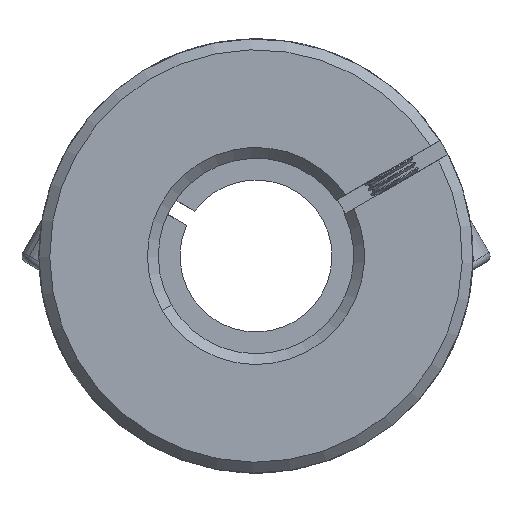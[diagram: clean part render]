
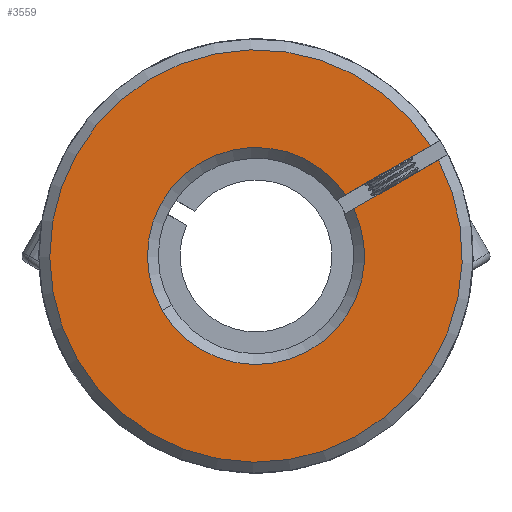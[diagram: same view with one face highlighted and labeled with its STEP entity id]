
A CAD part, front view. The second image highlights one B-rep face of the part: STEP entity #3559.
In plain terms, the highlighted planar face has unit normal (0, -1, 0).
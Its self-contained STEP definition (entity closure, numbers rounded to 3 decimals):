
#1217 = AXIS2_PLACEMENT_3D ( 'NONE', #3233, #9621, #7512 ) ;
#1266 = PLANE ( 'NONE',  #9088 ) ;
#1802 = ORIENTED_EDGE ( 'NONE', *, *, #13614, .T. ) ;
#2061 = CARTESIAN_POINT ( 'NONE',  ( -1.447, -31.239, 40. ) ) ;
#2662 = DIRECTION ( 'NONE',  ( 0.866, 0., 0.5 ) ) ;
#2723 = VECTOR ( 'NONE', #2662, 1000. ) ;
#3188 = CARTESIAN_POINT ( 'NONE',  ( 6.812, -31.239, 45.638 ) ) ;
#3233 = CARTESIAN_POINT ( 'NONE',  ( -1.447, -31.239, 40. ) ) ;
#3379 = DIRECTION ( 'NONE',  ( -0.866, 0., -0.5 ) ) ;
#3424 = EDGE_CURVE ( 'NONE', #5319, #13569, #8142, .T. ) ;
#3559 = ADVANCED_FACE ( 'NONE', ( #5109 ), #1266, .F. ) ;
#3897 = CARTESIAN_POINT ( 'NONE',  ( -10.106, -31.239, 34.997 ) ) ;
#4230 = ORIENTED_EDGE ( 'NONE', *, *, #9969, .T. ) ;
#4287 = CARTESIAN_POINT ( 'NONE',  ( 14.616, -31.239, 50.147 ) ) ;
#4338 = ORIENTED_EDGE ( 'NONE', *, *, #5843, .F. ) ;
#5022 = VERTEX_POINT ( 'NONE', #4287 ) ;
#5109 = FACE_OUTER_BOUND ( 'NONE', #6801, .T. ) ;
#5319 = VERTEX_POINT ( 'NONE', #3897 ) ;
#5325 = DIRECTION ( 'NONE',  ( 0., -1., 0. ) ) ;
#5670 = CARTESIAN_POINT ( 'NONE',  ( 7.562, -31.239, 44.339 ) ) ;
#5843 = EDGE_CURVE ( 'NONE', #8576, #10951, #11846, .T. ) ;
#6797 = AXIS2_PLACEMENT_3D ( 'NONE', #13855, #5325, #9527 ) ;
#6801 = EDGE_LOOP ( 'NONE', ( #4338, #1802, #9118, #10200, #4230 ) ) ;
#6933 = CARTESIAN_POINT ( 'NONE',  ( 6.694, -31.239, 43.837 ) ) ;
#7240 = LINE ( 'NONE', #10837, #13641 ) ;
#7512 = DIRECTION ( 'NONE',  ( 0.5, 0., -0.866 ) ) ;
#7592 = CARTESIAN_POINT ( 'NONE',  ( 52.98, -31.239, 45.743 ) ) ;
#8142 = CIRCLE ( 'NONE', #8603, 10. ) ;
#8565 = CARTESIAN_POINT ( 'NONE',  ( 15.367, -31.239, 48.848 ) ) ;
#8576 = VERTEX_POINT ( 'NONE', #5670 ) ;
#8603 = AXIS2_PLACEMENT_3D ( 'NONE', #2061, #9661, #12704 ) ;
#9088 = AXIS2_PLACEMENT_3D ( 'NONE', #7592, #9789, #13115 ) ;
#9118 = ORIENTED_EDGE ( 'NONE', *, *, #3424, .T. ) ;
#9527 = DIRECTION ( 'NONE',  ( 0.5, 0., -0.866 ) ) ;
#9621 = DIRECTION ( 'NONE',  ( 0., 1., 0. ) ) ;
#9661 = DIRECTION ( 'NONE',  ( 0., 1., 0. ) ) ;
#9789 = DIRECTION ( 'NONE',  ( 0., 1., 0. ) ) ;
#9969 = EDGE_CURVE ( 'NONE', #5022, #10951, #13248, .T. ) ;
#10200 = ORIENTED_EDGE ( 'NONE', *, *, #13680, .F. ) ;
#10837 = CARTESIAN_POINT ( 'NONE',  ( 5.943, -31.239, 45.136 ) ) ;
#10951 = VERTEX_POINT ( 'NONE', #8565 ) ;
#11846 = LINE ( 'NONE', #6933, #2723 ) ;
#12662 = CIRCLE ( 'NONE', #1217, 10. ) ;
#12704 = DIRECTION ( 'NONE',  ( 0.5, 0., -0.866 ) ) ;
#13115 = DIRECTION ( 'NONE',  ( 0.5, 0., -0.866 ) ) ;
#13248 = CIRCLE ( 'NONE', #6797, 19. ) ;
#13569 = VERTEX_POINT ( 'NONE', #3188 ) ;
#13614 = EDGE_CURVE ( 'NONE', #8576, #5319, #12662, .T. ) ;
#13641 = VECTOR ( 'NONE', #3379, 1000. ) ;
#13680 = EDGE_CURVE ( 'NONE', #5022, #13569, #7240, .T. ) ;
#13855 = CARTESIAN_POINT ( 'NONE',  ( -1.447, -31.239, 40. ) ) ;
